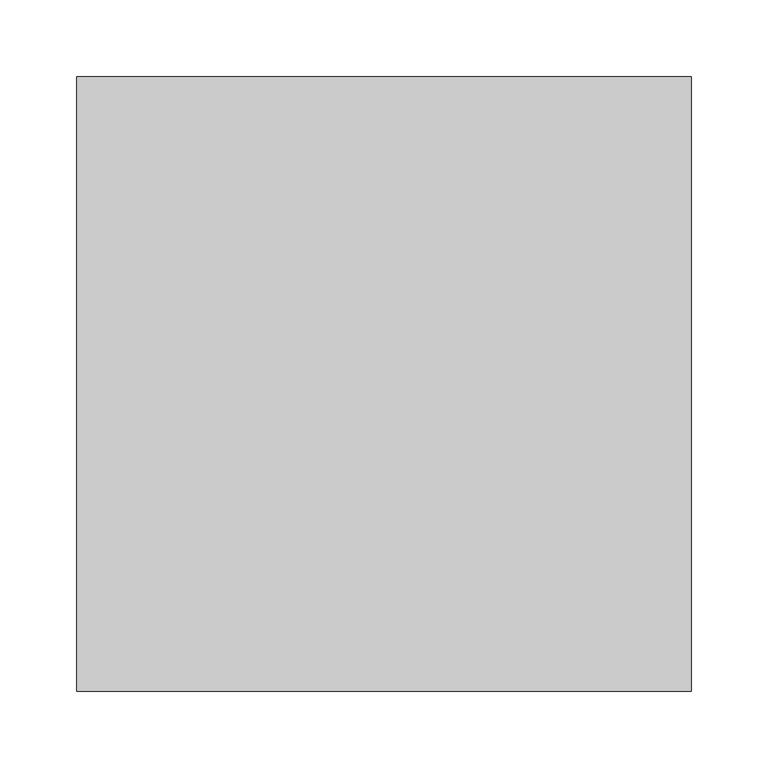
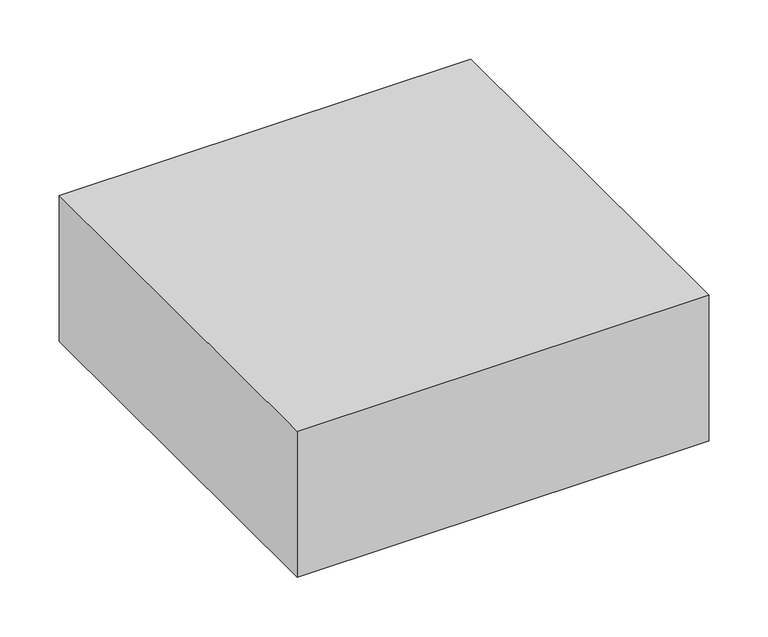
"""IFC4 building model written with IfcOpenShell, lengths in millimetres: proxy geometry, Módulo Laje de Concreto Celular - Celucon : MLCC 15x40x40cm (A x B x B)."""

from ifc_helpers import new_model, si_unit, origin, origin_with_axes, place, context, project, spatial, polyline, outline, extrude, source, transform, mapped, element, save


def generic_models_cd5d417e(model_context):
    return source(origin(), model_context, "Body", "SweptSolid", [
        extrude(outline(polyline([(200.0, 200.0), (200.0, -200.0), (-200.0, -200.0), (-200.0, 200.0), (200.0, 200.0)])), origin_with_axes(), (0.0, 0.0, 1.0), 150.0),
    ])


if __name__ == "__main__":
    model = new_model("IFC4")
    model_context = context("Model", 3, world=origin())
    ifc_project = project(units=[si_unit("LENGTHUNIT", "METRE", prefix="MILLI")], contexts=[model_context])
    site = spatial("IfcSite", under=ifc_project)
    building = spatial("IfcBuilding", under=site)
    placement = place(None, origin())
    generic_models_shape = generic_models_cd5d417e(model_context)
    element("IfcBuildingElementProxy", 1, Name="Módulo Laje de Concreto Celular - Celucon : MLCC 15x40x40cm (A x B x B)", ObjectType="Módulo Laje de Concreto Celular - Celucon : MLCC 15x40x40cm (A x B x B)", at=placement, inside=building, context=model_context, shape_type="MappedRepresentation", body=[
        mapped(generic_models_shape, transform((0.0, 0.0, 0.0), x_axis=(1.0, 0.0, 0.0), y_axis=(0.0, 1.0, 0.0), z_axis=(0.0, 0.0, 1.0))),
    ])
    save(model, "model.ifc")
